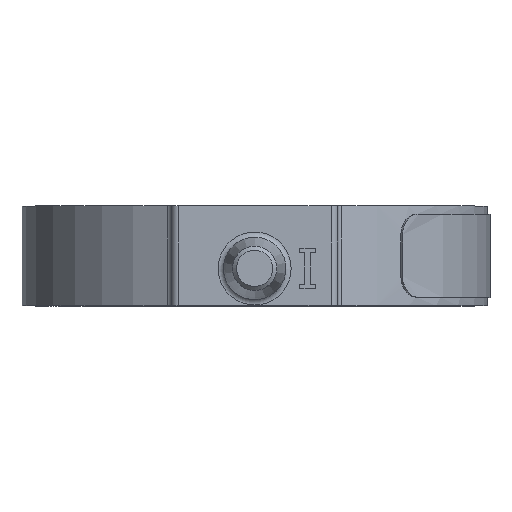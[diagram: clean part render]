
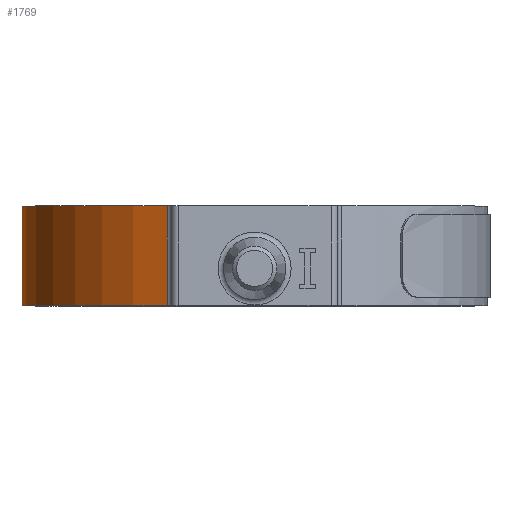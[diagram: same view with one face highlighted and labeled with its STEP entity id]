
A CAD part, top view. The second image highlights one B-rep face of the part: STEP entity #1769.
In plain terms, the highlighted cylindrical face has radius 17.78 mm (diameter 35.56 mm), a partial arc.
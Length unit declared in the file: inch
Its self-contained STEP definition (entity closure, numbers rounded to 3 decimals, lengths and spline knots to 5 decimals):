
#64=CYLINDRICAL_SURFACE('',#1924,0.7);
#191=FACE_OUTER_BOUND('',#304,.T.);
#304=EDGE_LOOP('',(#1261,#1262,#1263,#1264));
#432=LINE('',#2890,#551);
#434=LINE('',#2896,#553);
#551=VECTOR('',#2133,0.3937);
#553=VECTOR('',#2139,0.3937);
#653=CIRCLE('',#1895,0.7);
#675=CIRCLE('',#1925,0.7);
#727=VERTEX_POINT('',#2475);
#728=VERTEX_POINT('',#2477);
#780=VERTEX_POINT('',#2889);
#782=VERTEX_POINT('',#2895);
#907=EDGE_CURVE('',#727,#728,#653,.T.);
#968=EDGE_CURVE('',#780,#728,#432,.T.);
#971=EDGE_CURVE('',#782,#727,#434,.T.);
#972=EDGE_CURVE('',#780,#782,#675,.T.);
#1261=ORIENTED_EDGE('',*,*,#968,.T.);
#1262=ORIENTED_EDGE('',*,*,#907,.F.);
#1263=ORIENTED_EDGE('',*,*,#971,.F.);
#1264=ORIENTED_EDGE('',*,*,#972,.F.);
#1769=ADVANCED_FACE('',(#191),#64,.T.);
#1895=AXIS2_PLACEMENT_3D('',#2478,#2057,#2058);
#1924=AXIS2_PLACEMENT_3D('',#2894,#2137,#2138);
#1925=AXIS2_PLACEMENT_3D('',#2897,#2140,#2141);
#2057=DIRECTION('center_axis',(0.,-1.,0.));
#2058=DIRECTION('ref_axis',(1.,0.,0.));
#2133=DIRECTION('',(0.,-1.,0.));
#2137=DIRECTION('center_axis',(0.,1.,0.));
#2138=DIRECTION('ref_axis',(-0.938,0.,0.346));
#2139=DIRECTION('',(0.,-1.,0.));
#2140=DIRECTION('center_axis',(0.,1.,0.));
#2141=DIRECTION('ref_axis',(1.,0.,0.));
#2475=CARTESIAN_POINT('',(-0.2625,0.,0.64892));
#2477=CARTESIAN_POINT('',(-0.62066,0.,-0.3237));
#2478=CARTESIAN_POINT('Origin',(0.,0.,0.));
#2889=CARTESIAN_POINT('',(-0.62066,0.3,-0.3237));
#2890=CARTESIAN_POINT('',(-0.62066,0.,-0.3237));
#2894=CARTESIAN_POINT('Origin',(0.,0.,0.));
#2895=CARTESIAN_POINT('',(-0.2625,0.3,0.64892));
#2896=CARTESIAN_POINT('',(-0.2625,0.,0.64892));
#2897=CARTESIAN_POINT('Origin',(0.,0.3,0.));
